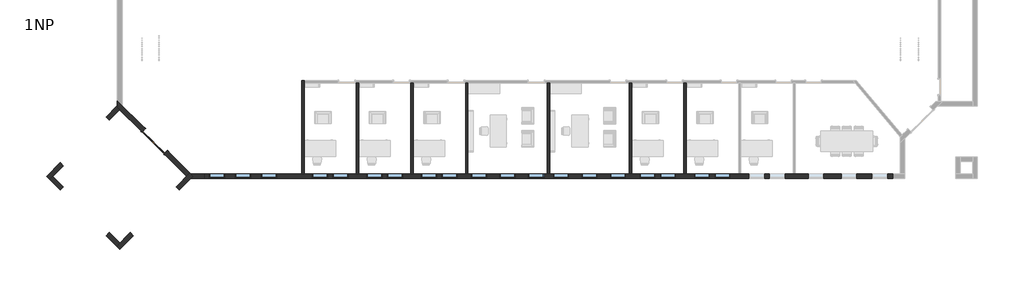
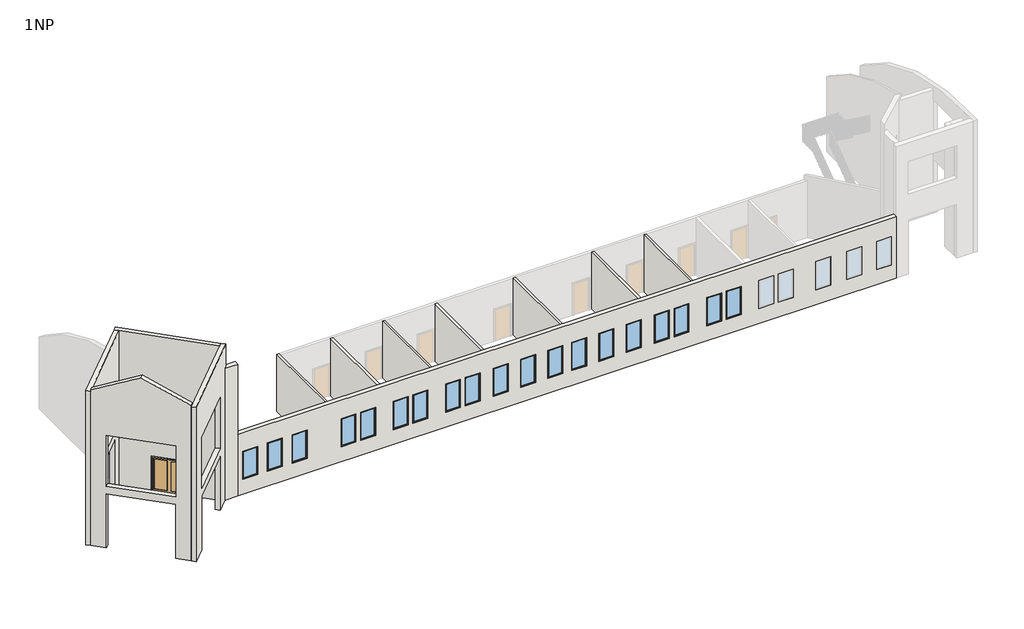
# One storey, part 1 of 3: 19 windows, 13 walls, 1 door.
"""IFC4 building model written with IfcOpenShell, lengths in millimetres."""

from ifc_helpers import new_model, si_unit, frame, origin, origin_with_axes, place, context, project, spatial, polyline, circle_curve, ellipse_curve, outline, extrude, faceted_brep, transform, mapped, element, save
from ifc_brep_helpers import plane_surface, cylinder_surface, advanced_brep
from components import m_double_glass_1_1830_x_2134mm_ce9160c6, m_fixed_0915_x_1830mm_7ee91fd3

model = new_model("IFC4")

# Units and contexts
model_context = context("Model", 3, world=origin())
ifc_project = project(units=[si_unit("LENGTHUNIT", "METRE", prefix="MILLI")], contexts=[model_context])

# Site, building, storey
site = spatial("IfcSite", under=ifc_project)
building = spatial("IfcBuilding", under=site)
storey = spatial("IfcBuildingStorey", under=building, Name="1NP", Elevation=0.0)

# Door
placement = place(None, origin())
m_double_glass_1_1830_x_2134mm_shape = m_double_glass_1_1830_x_2134mm_ce9160c6(model_context)
element("IfcDoor", 1, ObjectType="M_Double-Glass 1 : 1830 x 2134mm", at=placement, inside=storey, context=model_context, shape_type="MappedRepresentation", body=[
    mapped(m_double_glass_1_1830_x_2134mm_shape, transform((-9492.0310093, -2706.151406, 0.0), x_axis=(-0.7071067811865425, 0.7071067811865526, 0.0), y_axis=(-0.7071067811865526, -0.7071067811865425, 0.0), z_axis=(0.0, 0.0, 1.0))),
])

# Walls
element("IfcWall", 2, ObjectType="Exterior - EIFS on Mtl. Stud", at=placement, inside=storey, context=model_context, shape_type="AdvancedBrep", body=[
    advanced_brep(
    [(-6587.8076313, -4624.9448694, 0.0), (-7387.8076313, -4624.9448694, 0.0), (-7387.8076313, -4624.9448694, 8556.4380679), (-6587.8076313, -4624.9448694, 8556.4380679), (-6587.8076313, -4624.9448694, 8000.0), (-6587.8076313, -4624.9448694, 4000.0), (-6587.8076313, -4891.9448694, 0.0), (-6587.8076313, -4891.9448694, 4000.0), (-6587.8076313, -4891.9448694, 8000.0), (-6587.8076313, -4891.9448694, 8541.7849302), (-7387.8076313, -4891.9448694, 8541.7849302), (-7387.8076313, -4891.9448694, 0.0), (-7254.3076313, -4758.4448694, 0.0), (-7254.3076313, -4758.4448694, 8549.6141311)],
    [
        (0, 1),
        (1, 2),
        (2, 3),
        (3, 4),
        (4, 5),
        (5, 0),
        (6, 7),
        (7, 8),
        (8, 9),
        (9, 10),
        (10, 11),
        (11, 6),
        (0, 6),
        (11, 12),
        (12, 1),
        (3, 9, circle_curve(frame((-6587.8076313, -3782.5530793, -9232.9575956), z_axis=(1.0, 0.0, 0.0), x_axis=(0.0, -1.0, 0.0)), 17809.3296337)),
        (12, 13),
        (13, 2, ellipse_curve(frame((-8230.1994214, -3782.5530793, -9232.9575956), z_axis=(-0.7071067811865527, -0.7071067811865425, 0.0), x_axis=(0.7071067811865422, -0.7071067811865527, 0.0)), 25186.1955048, 17809.3296337)),
        (10, 13, ellipse_curve(frame((-6278.4158411, -3782.5530793, -9232.9575956), z_axis=(-0.7071067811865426, 0.7071067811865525, 0.0), x_axis=(0.7071067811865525, 0.7071067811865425, 0.0)), 25186.1955048, 17809.3296337)),
    ],
    [
        plane_surface(frame((12455.6755273, -4624.9448694, 0.0), z_axis=(0.0, 1.0, 0.0), x_axis=(-1.0, 0.0, 0.0))),
        plane_surface(frame((12455.6755273, -4891.9448694, 0.0), z_axis=(0.0, -1.0, 0.0), x_axis=(1.0, 0.0, 0.0))),
        plane_surface(frame((-6587.8076313, -4624.9448694, 0.0), z_axis=(0.0, 0.0, -1.0), x_axis=(0.0, -1.0, 0.0))),
        plane_surface(frame((-6587.8076313, -4624.9448694, 4000.0), z_axis=(1.0, 0.0, 0.0), x_axis=(0.0, -1.0, 0.0))),
        plane_surface(frame((-9352.1166743, -2660.6358263, -427.8219034), z_axis=(-0.7071067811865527, -0.7071067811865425, 0.0), x_axis=(0.7071067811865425, -0.7071067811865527, 0.0))),
        plane_surface(frame((-9352.1166743, -6856.2539125, -427.8219034), z_axis=(-0.7071067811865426, 0.7071067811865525, 0.0), x_axis=(-0.7071067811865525, -0.7071067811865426, 0.0))),
        cylinder_surface(frame((39922.6755273, -3782.5530793, -9232.9575956), z_axis=(1.0, 0.0, 0.0), x_axis=(0.0, -1.0, 0.0)), 17809.3296337),
    ],
    [
        (0, [[1, 2, 3, 4, 5, 6]]),
        (1, [[7, 8, 9, 10, 11, 12]]),
        (2, [[-1, 13, -12, 14, 15]]),
        (3, [[-6, -5, -4, 16, -9, -8, -7, -13]]),
        (4, [[-2, -15, 17, 18]]),
        (5, [[-14, -11, 19, -17]]),
        (6, [[-3, -18, -19, -10, -16]]),
    ],
),
])
element("IfcWall", 3, ObjectType="Exterior - EIFS on Mtl. Stud", at=placement, inside=storey, context=model_context, shape_type="Brep", body=[
    faceted_brep([(33755.6755273, -4624.9448694, 0.0), (28058.4255273, -4624.9448694, 0.0), (27919.9255273, -4624.9448694, 0.0), (24858.4255273, -4624.9448694, 0.0), (24719.9255273, -4624.9448694, 0.0), (21658.4255273, -4624.9448694, 0.0), (21519.9255273, -4624.9448694, 0.0), (18458.4255273, -4624.9448694, 0.0), (18319.9255273, -4624.9448694, 0.0), (13658.4255273, -4624.9448694, 0.0), (13519.9255273, -4624.9448694, 0.0), (8858.4255273, -4624.9448694, 0.0), (8719.9255273, -4624.9448694, 0.0), (5658.4255273, -4624.9448694, 0.0), (5519.9255273, -4624.9448694, 0.0), (2458.4255273, -4624.9448694, 0.0), (2319.9255273, -4624.9448694, 0.0), (-741.5744727, -4624.9448694, 0.0), (-880.0744727, -4624.9448694, 0.0), (-6587.8076313, -4624.9448694, 0.0), (-6587.8076313, -4624.9448694, 4000.0), (33755.6755273, -4624.9448694, 4000.0), (33455.6755273, -4624.9448694, 970.0), (33455.6755273, -4624.9448694, 2800.0), (32540.6755273, -4624.9448694, 2800.0), (32540.6755273, -4624.9448694, 970.0), (31640.6755273, -4624.9448694, 970.0), (31640.6755273, -4624.9448694, 2800.0), (30725.6755273, -4624.9448694, 2800.0), (30725.6755273, -4624.9448694, 970.0), (29725.6755273, -4624.9448694, 970.0), (29725.6755273, -4624.9448694, 2800.0), (28810.6755273, -4624.9448694, 2800.0), (28810.6755273, -4624.9448694, 970.0), (-5380.0744727, -4624.9448694, 970.0), (-5380.0744727, -4624.9448694, 2800.0), (-6295.0744727, -4624.9448694, 2800.0), (-6295.0744727, -4624.9448694, 970.0), (-3865.0744727, -4624.9448694, 970.0), (-3865.0744727, -4624.9448694, 2800.0), (-4780.0744727, -4624.9448694, 2800.0), (-4780.0744727, -4624.9448694, 970.0), (-2350.0744727, -4624.9448694, 970.0), (-2350.0744727, -4624.9448694, 2800.0), (-3265.0744727, -4624.9448694, 2800.0), (-3265.0744727, -4624.9448694, 970.0), (646.6755273, -4624.9448694, 970.0), (646.6755273, -4624.9448694, 2800.0), (-268.3244727, -4624.9448694, 2800.0), (-268.3244727, -4624.9448694, 970.0), (1846.6755273, -4624.9448694, 970.0), (1846.6755273, -4624.9448694, 2800.0), (931.6755273, -4624.9448694, 2800.0), (931.6755273, -4624.9448694, 970.0), (9973.4255273, -4624.9448694, 970.0), (9973.4255273, -4624.9448694, 2800.0), (9058.4255273, -4624.9448694, 2800.0), (9058.4255273, -4624.9448694, 970.0), (13319.9255273, -4624.9448694, 970.0), (13319.9255273, -4624.9448694, 2800.0), (12404.9255273, -4624.9448694, 2800.0), (12404.9255273, -4624.9448694, 970.0), (11646.4255273, -4624.9448694, 970.0), (11646.4255273, -4624.9448694, 2800.0), (10731.4255273, -4624.9448694, 2800.0), (10731.4255273, -4624.9448694, 970.0), (14773.4255273, -4624.9448694, 970.0), (14773.4255273, -4624.9448694, 2800.0), (13858.4255273, -4624.9448694, 2800.0), (13858.4255273, -4624.9448694, 970.0), (18119.9255273, -4624.9448694, 970.0), (18119.9255273, -4624.9448694, 2800.0), (17204.9255273, -4624.9448694, 2800.0), (17204.9255273, -4624.9448694, 970.0), (16446.4255273, -4624.9448694, 970.0), (16446.4255273, -4624.9448694, 2800.0), (15531.4255273, -4624.9448694, 2800.0), (15531.4255273, -4624.9448694, 970.0), (3846.6755273, -4624.9448694, 970.0), (3846.6755273, -4624.9448694, 2800.0), (2931.6755273, -4624.9448694, 2800.0), (2931.6755273, -4624.9448694, 970.0), (5046.6755273, -4624.9448694, 970.0), (5046.6755273, -4624.9448694, 2800.0), (4131.6755273, -4624.9448694, 2800.0), (4131.6755273, -4624.9448694, 970.0), (7046.6755273, -4624.9448694, 970.0), (7046.6755273, -4624.9448694, 2800.0), (6131.6755273, -4624.9448694, 2800.0), (6131.6755273, -4624.9448694, 970.0), (8246.6755273, -4624.9448694, 970.0), (8246.6755273, -4624.9448694, 2800.0), (7331.6755273, -4624.9448694, 2800.0), (7331.6755273, -4624.9448694, 970.0), (19846.6755273, -4624.9448694, 970.0), (19846.6755273, -4624.9448694, 2800.0), (18931.6755273, -4624.9448694, 2800.0), (18931.6755273, -4624.9448694, 970.0), (21046.6755273, -4624.9448694, 970.0), (21046.6755273, -4624.9448694, 2800.0), (20131.6755273, -4624.9448694, 2800.0), (20131.6755273, -4624.9448694, 970.0), (23046.6755273, -4624.9448694, 970.0), (23046.6755273, -4624.9448694, 2800.0), (22131.6755273, -4624.9448694, 2800.0), (22131.6755273, -4624.9448694, 970.0), (24246.6755273, -4624.9448694, 970.0), (24246.6755273, -4624.9448694, 2800.0), (23331.6755273, -4624.9448694, 2800.0), (23331.6755273, -4624.9448694, 970.0), (26246.6755273, -4624.9448694, 970.0), (26246.6755273, -4624.9448694, 2800.0), (25331.6755273, -4624.9448694, 2800.0), (25331.6755273, -4624.9448694, 970.0), (27446.6755273, -4624.9448694, 970.0), (27446.6755273, -4624.9448694, 2800.0), (26531.6755273, -4624.9448694, 2800.0), (26531.6755273, -4624.9448694, 970.0), (-6587.8076313, -4891.9448694, 0.0), (33755.6755273, -4891.9448694, 0.0), (33755.6755273, -4891.9448694, 4000.0), (-6587.8076313, -4891.9448694, 4000.0), (33455.6755273, -4891.9448694, 2800.0), (33455.6755273, -4891.9448694, 970.0), (32540.6755273, -4891.9448694, 970.0), (32540.6755273, -4891.9448694, 2800.0), (31640.6755273, -4891.9448694, 2800.0), (31640.6755273, -4891.9448694, 970.0), (30725.6755273, -4891.9448694, 970.0), (30725.6755273, -4891.9448694, 2800.0), (29725.6755273, -4891.9448694, 2800.0), (29725.6755273, -4891.9448694, 970.0), (28810.6755273, -4891.9448694, 970.0), (28810.6755273, -4891.9448694, 2800.0), (-5380.0744727, -4891.9448694, 2800.0), (-5380.0744727, -4891.9448694, 970.0), (-6295.0744727, -4891.9448694, 970.0), (-6295.0744727, -4891.9448694, 2800.0), (-3865.0744727, -4891.9448694, 2800.0), (-3865.0744727, -4891.9448694, 970.0), (-4780.0744727, -4891.9448694, 970.0), (-4780.0744727, -4891.9448694, 2800.0), (-2350.0744727, -4891.9448694, 2800.0), (-2350.0744727, -4891.9448694, 970.0), (-3265.0744727, -4891.9448694, 970.0), (-3265.0744727, -4891.9448694, 2800.0), (646.6755273, -4891.9448694, 2800.0), (646.6755273, -4891.9448694, 970.0), (-268.3244727, -4891.9448694, 970.0), (-268.3244727, -4891.9448694, 2800.0), (1846.6755273, -4891.9448694, 2800.0), (1846.6755273, -4891.9448694, 970.0), (931.6755273, -4891.9448694, 970.0), (931.6755273, -4891.9448694, 2800.0), (9973.4255273, -4891.9448694, 2800.0), (9973.4255273, -4891.9448694, 970.0), (9058.4255273, -4891.9448694, 970.0), (9058.4255273, -4891.9448694, 2800.0), (13319.9255273, -4891.9448694, 2800.0), (13319.9255273, -4891.9448694, 970.0), (12404.9255273, -4891.9448694, 970.0), (12404.9255273, -4891.9448694, 2800.0), (11646.4255273, -4891.9448694, 2800.0), (11646.4255273, -4891.9448694, 970.0), (10731.4255273, -4891.9448694, 970.0), (10731.4255273, -4891.9448694, 2800.0), (14773.4255273, -4891.9448694, 970.0), (13858.4255273, -4891.9448694, 970.0), (13858.4255273, -4891.9448694, 2800.0), (14773.4255273, -4891.9448694, 2800.0), (18119.9255273, -4891.9448694, 970.0), (17204.9255273, -4891.9448694, 970.0), (17204.9255273, -4891.9448694, 2800.0), (18119.9255273, -4891.9448694, 2800.0), (16446.4255273, -4891.9448694, 970.0), (15531.4255273, -4891.9448694, 970.0), (15531.4255273, -4891.9448694, 2800.0), (16446.4255273, -4891.9448694, 2800.0), (3846.6755273, -4891.9448694, 970.0), (2931.6755273, -4891.9448694, 970.0), (2931.6755273, -4891.9448694, 2800.0), (3846.6755273, -4891.9448694, 2800.0), (5046.6755273, -4891.9448694, 970.0), (4131.6755273, -4891.9448694, 970.0), (4131.6755273, -4891.9448694, 2800.0), (5046.6755273, -4891.9448694, 2800.0), (7046.6755273, -4891.9448694, 970.0), (6131.6755273, -4891.9448694, 970.0), (6131.6755273, -4891.9448694, 2800.0), (7046.6755273, -4891.9448694, 2800.0), (8246.6755273, -4891.9448694, 970.0), (7331.6755273, -4891.9448694, 970.0), (7331.6755273, -4891.9448694, 2800.0), (8246.6755273, -4891.9448694, 2800.0), (19846.6755273, -4891.9448694, 970.0), (18931.6755273, -4891.9448694, 970.0), (18931.6755273, -4891.9448694, 2800.0), (19846.6755273, -4891.9448694, 2800.0), (21046.6755273, -4891.9448694, 970.0), (20131.6755273, -4891.9448694, 970.0), (20131.6755273, -4891.9448694, 2800.0), (21046.6755273, -4891.9448694, 2800.0), (23046.6755273, -4891.9448694, 970.0), (22131.6755273, -4891.9448694, 970.0), (22131.6755273, -4891.9448694, 2800.0), (23046.6755273, -4891.9448694, 2800.0), (24246.6755273, -4891.9448694, 970.0), (23331.6755273, -4891.9448694, 970.0), (23331.6755273, -4891.9448694, 2800.0), (24246.6755273, -4891.9448694, 2800.0), (26246.6755273, -4891.9448694, 970.0), (25331.6755273, -4891.9448694, 970.0), (25331.6755273, -4891.9448694, 2800.0), (26246.6755273, -4891.9448694, 2800.0), (27446.6755273, -4891.9448694, 970.0), (26531.6755273, -4891.9448694, 970.0), (26531.6755273, -4891.9448694, 2800.0), (27446.6755273, -4891.9448694, 2800.0)], [[[0, 1, 2, 3, 4, 5, 6, 7, 8, 9, 10, 11, 12, 13, 14, 15, 16, 17, 18, 19, 20, 21], [22, 23, 24, 25], [26, 27, 28, 29], [30, 31, 32, 33], [34, 35, 36, 37], [38, 39, 40, 41], [42, 43, 44, 45], [46, 47, 48, 49], [50, 51, 52, 53], [54, 55, 56, 57], [58, 59, 60, 61], [62, 63, 64, 65], [66, 67, 68, 69], [70, 71, 72, 73], [74, 75, 76, 77], [78, 79, 80, 81], [82, 83, 84, 85], [86, 87, 88, 89], [90, 91, 92, 93], [94, 95, 96, 97], [98, 99, 100, 101], [102, 103, 104, 105], [106, 107, 108, 109], [110, 111, 112, 113], [114, 115, 116, 117]], [[118, 119, 120, 121], [122, 123, 124, 125], [126, 127, 128, 129], [130, 131, 132, 133], [134, 135, 136, 137], [138, 139, 140, 141], [142, 143, 144, 145], [146, 147, 148, 149], [150, 151, 152, 153], [154, 155, 156, 157], [158, 159, 160, 161], [162, 163, 164, 165], [166, 167, 168, 169], [170, 171, 172, 173], [174, 175, 176, 177], [178, 179, 180, 181], [182, 183, 184, 185], [186, 187, 188, 189], [190, 191, 192, 193], [194, 195, 196, 197], [198, 199, 200, 201], [202, 203, 204, 205], [206, 207, 208, 209], [210, 211, 212, 213], [214, 215, 216, 217]], [[19, 18, 17, 16, 15, 14, 13, 12, 11, 10, 9, 8, 7, 6, 5, 4, 3, 2, 1, 0, 119, 118]], [[20, 19, 118, 121]], [[21, 20, 121, 120]], [[21, 120, 119, 0]], [[23, 22, 123, 122]], [[24, 23, 122, 125]], [[25, 24, 125, 124]], [[22, 25, 124, 123]], [[27, 26, 127, 126]], [[28, 27, 126, 129]], [[29, 28, 129, 128]], [[26, 29, 128, 127]], [[31, 30, 131, 130]], [[32, 31, 130, 133]], [[33, 32, 133, 132]], [[30, 33, 132, 131]], [[34, 135, 134, 35]], [[35, 134, 137, 36]], [[136, 37, 36, 137]], [[135, 34, 37, 136]], [[39, 38, 139, 138]], [[40, 39, 138, 141]], [[41, 40, 141, 140]], [[38, 41, 140, 139]], [[43, 42, 143, 142]], [[44, 43, 142, 145]], [[45, 44, 145, 144]], [[42, 45, 144, 143]], [[47, 46, 147, 146]], [[48, 47, 146, 149]], [[49, 48, 149, 148]], [[46, 49, 148, 147]], [[51, 50, 151, 150]], [[52, 51, 150, 153]], [[53, 52, 153, 152]], [[50, 53, 152, 151]], [[55, 54, 155, 154]], [[56, 55, 154, 157]], [[57, 56, 157, 156]], [[54, 57, 156, 155]], [[59, 58, 159, 158]], [[60, 59, 158, 161]], [[61, 60, 161, 160]], [[58, 61, 160, 159]], [[62, 163, 162, 63]], [[63, 162, 165, 64]], [[64, 165, 164, 65]], [[163, 62, 65, 164]], [[67, 66, 166, 169]], [[68, 67, 169, 168]], [[69, 68, 168, 167]], [[66, 69, 167, 166]], [[71, 70, 170, 173]], [[72, 71, 173, 172]], [[73, 72, 172, 171]], [[70, 73, 171, 170]], [[75, 74, 174, 177]], [[76, 75, 177, 176]], [[77, 76, 176, 175]], [[74, 77, 175, 174]], [[79, 78, 178, 181]], [[80, 79, 181, 180]], [[81, 80, 180, 179]], [[78, 81, 179, 178]], [[83, 82, 182, 185]], [[84, 83, 185, 184]], [[85, 84, 184, 183]], [[82, 85, 183, 182]], [[87, 86, 186, 189]], [[88, 87, 189, 188]], [[89, 88, 188, 187]], [[86, 89, 187, 186]], [[91, 90, 190, 193]], [[92, 91, 193, 192]], [[93, 92, 192, 191]], [[90, 93, 191, 190]], [[95, 94, 194, 197]], [[96, 95, 197, 196]], [[97, 96, 196, 195]], [[94, 97, 195, 194]], [[99, 98, 198, 201]], [[100, 99, 201, 200]], [[101, 100, 200, 199]], [[98, 101, 199, 198]], [[103, 102, 202, 205]], [[104, 103, 205, 204]], [[105, 104, 204, 203]], [[102, 105, 203, 202]], [[107, 106, 206, 209]], [[108, 107, 209, 208]], [[109, 108, 208, 207]], [[106, 109, 207, 206]], [[111, 110, 210, 213]], [[112, 111, 213, 212]], [[113, 112, 212, 211]], [[110, 113, 211, 210]], [[115, 114, 214, 217]], [[116, 115, 217, 216]], [[117, 116, 216, 215]], [[114, 117, 215, 214]]]),
])
element("IfcWall", 4, ObjectType="Exterior - EIFS on Mtl. Stud 2side", at=placement, inside=storey, context=model_context, shape_type="Brep", body=[
    faceted_brep([(-7443.1051418, -4569.6473588, 10000.0), (-7443.1051418, -4569.6473588, 0.0), (-7631.9026524, -4758.4448694, 0.0), (-8244.6106783, -5371.1528953, 0.0), (-8244.6106783, -5371.1528953, 3500.0), (-10931.6164468, -8058.1586638, 3500.0), (-10931.6164468, -8058.1586638, 0.0), (-11544.3244727, -8670.8666897, 0.0), (-11733.1219833, -8859.6642003, 0.0), (-11733.1219833, -8859.6642003, 10000.0), (-7631.9026524, -4758.4448694, 10000.0), (-8244.6106783, -5371.1528953, 4000.0), (-8244.6106783, -5371.1528953, 7300.0), (-10931.6164468, -8058.1586638, 7300.0), (-10931.6164468, -8058.1586638, 4000.0), (-7254.3076313, -4758.4448694, 0.0), (-7254.3076313, -4758.4448694, 8549.6141311), (-7254.3076313, -4758.4448694, 10000.0), (-11544.3244727, -9048.4617109, 10000.0), (-11544.3244727, -9048.4617109, 0.0), (-10742.8189362, -8246.9561744, 0.0), (-10742.8189362, -8246.9561744, 3500.0), (-8055.8131677, -5559.9504059, 3500.0), (-8055.8131677, -5559.9504059, 0.0), (-7387.8076313, -4891.9448694, 0.0), (-8055.8131677, -5559.9504059, 4000.0), (-10742.8189362, -8246.9561744, 4000.0), (-10742.8189362, -8246.9561744, 7300.0), (-8055.8131677, -5559.9504059, 7300.0), (-7387.8076313, -4624.9448694, 0.0)], [[[0, 1, 2, 3, 4, 5, 6, 7, 8, 9, 10], [11, 12, 13, 14]], [[15, 16, 17, 18, 19, 20, 21, 22, 23, 24], [25, 26, 27, 28]], [[3, 2, 1, 29, 15, 24, 23]], [[4, 3, 23, 22]], [[5, 4, 22, 21]], [[6, 5, 21, 20]], [[8, 7, 6, 20, 19]], [[0, 10, 9, 18, 17]], [[12, 11, 25, 28]], [[13, 12, 28, 27]], [[14, 13, 27, 26]], [[11, 14, 26, 25]], [[0, 17, 16, 15, 29, 1]], [[9, 8, 19, 18]]]),
])
element("IfcWall", 5, ObjectType="Exterior - EIFS on Mtl. Stud 2side", at=placement, inside=storey, context=model_context, shape_type="Brep", body=[
    faceted_brep([(-7631.9026524, -4758.4448694, 10000.0), (-11544.3244727, -846.0230491, 10000.0), (-11733.1219833, -657.2255385, 10000.0), (-11733.1219833, -657.2255385, 8290.0514578), (-11677.8244727, -712.5230491, 8290.0514578), (-11677.8244727, -712.5230491, 0.0), (-11544.3244727, -846.0230491, 0.0), (-10235.1162674, -2155.2312545, 0.0), (-10235.1162674, -2155.2312545, 2134.0), (-8941.1108578, -3449.2366641, 2134.0), (-8941.1108578, -3449.2366641, 0.0), (-7631.9026524, -4758.4448694, 0.0), (-11544.3244727, -468.428028, 10000.0), (-7443.1051418, -4569.6473588, 10000.0), (-7443.1051418, -4569.6473588, 0.0), (-8752.3133472, -3260.4391535, 0.0), (-8752.3133472, -3260.4391535, 2134.0), (-10046.3187568, -1966.4337439, 2134.0), (-10046.3187568, -1966.4337439, 0.0), (-11410.8244727, -601.928028, 0.0), (-11677.8244727, -334.928028, 0.0), (-11677.8244727, -334.928028, 8239.4808006), (-11677.8244727, -334.928028, 8290.0514578), (-11544.3244727, -468.428028, 8290.0514578), (-11677.8244727, -601.928028, 0.0), (-11677.8244727, -601.928028, 8290.0514578)], [[[0, 1, 2, 3, 4, 5, 6, 7, 8, 9, 10, 11]], [[12, 13, 14, 15, 16, 17, 18, 19, 20, 21, 22, 23]], [[5, 24, 20, 19, 18, 7, 6]], [[14, 11, 10, 15]], [[2, 1, 0, 13, 12]], [[4, 3, 25]], [[5, 4, 25, 22, 21, 20, 24]], [[3, 2, 12, 23, 25]], [[23, 22, 25]], [[11, 14, 13, 0]], [[8, 7, 18, 17]], [[9, 8, 17, 16]], [[10, 9, 16, 15]]]),
])
element("IfcWall", 6, ObjectType="Exterior - EIFS on Mtl. Stud 2side", at=placement, inside=storey, context=model_context, shape_type="Brep", body=[
    faceted_brep([(-11677.8244727, -601.928028, 0.0), (-12345.8300092, -1269.9335644, 0.0), (-12345.8300092, -1269.9335644, 3500.0), (-15032.8357777, -3956.939333, 3500.0), (-15032.8357777, -3956.939333, 0.0), (-15834.3413142, -4758.4448694, 0.0), (-15834.3413142, -4758.4448694, 10000.0), (-11733.1219833, -657.2255385, 10000.0), (-11733.1219833, -657.2255385, 8290.0514578), (-11677.8244727, -601.928028, 8290.0514578), (-12345.8300092, -1269.9335644, 4000.0), (-12345.8300092, -1269.9335644, 7300.0), (-15032.8357777, -3956.939333, 7300.0), (-15032.8357777, -3956.939333, 4000.0), (-11544.3244727, -846.0230491, 0.0), (-11544.3244727, -846.0230491, 8290.0514578), (-11544.3244727, -846.0230491, 10000.0), (-15645.5438036, -4947.24238, 10000.0), (-15645.5438036, -4947.24238, 0.0), (-15456.746293, -4758.4448694, 0.0), (-14844.0382671, -4145.7368435, 0.0), (-14844.0382671, -4145.7368435, 3500.0), (-12157.0324986, -1458.731075, 3500.0), (-12157.0324986, -1458.731075, 0.0), (-12157.0324986, -1458.731075, 4000.0), (-14844.0382671, -4145.7368435, 4000.0), (-14844.0382671, -4145.7368435, 7300.0), (-12157.0324986, -1458.731075, 7300.0), (-11677.8244727, -712.5230491, 0.0), (-11677.8244727, -712.5230491, 8290.0514578)], [[[0, 1, 2, 3, 4, 5, 6, 7, 8, 9], [10, 11, 12, 13]], [[14, 15, 16, 17, 18, 19, 20, 21, 22, 23], [24, 25, 26, 27]], [[1, 0, 28, 14, 23]], [[2, 1, 23, 22]], [[3, 2, 22, 21]], [[4, 3, 21, 20]], [[5, 4, 20, 19, 18]], [[7, 6, 17, 16]], [[11, 10, 24, 27]], [[12, 11, 27, 26]], [[13, 12, 26, 25]], [[10, 13, 25, 24]], [[6, 5, 18, 17]], [[8, 29, 9]], [[0, 9, 29, 28]], [[29, 15, 14, 28]], [[8, 7, 16, 15, 29]]]),
])
element("IfcWall", 7, ObjectType="Exterior - EIFS on Mtl. Stud 2side", at=placement, inside=storey, context=model_context, shape_type="Brep", body=[
    faceted_brep([(-15645.5438036, -4947.24238, 0.0), (-15032.8357777, -5559.9504059, 0.0), (-15032.8357777, -5559.9504059, 3500.0), (-12345.8300092, -8246.9561744, 3500.0), (-12345.8300092, -8246.9561744, 0.0), (-11733.1219833, -8859.6642003, 0.0), (-11733.1219833, -8859.6642003, 10000.0), (-11733.1219833, -8859.6642003, 10076.9407636), (-13689.3328934, -6903.4532902, 11366.9808999), (-15645.5438036, -4947.24238, 10076.9407636), (-15645.5438036, -4947.24238, 10000.0), (-15032.8357777, -5559.9504059, 4000.0), (-15032.8357777, -5559.9504059, 7300.0), (-12345.8300092, -8246.9561744, 7300.0), (-12345.8300092, -8246.9561744, 4000.0), (-15456.746293, -4758.4448694, 0.0), (-15456.746293, -4758.4448694, 10076.9407636), (-13500.5353829, -6714.6557796, 11366.9808999), (-11544.3244727, -8670.8666897, 10076.9407636), (-11544.3244727, -8670.8666897, 0.0), (-12157.0324986, -8058.1586638, 0.0), (-12157.0324986, -8058.1586638, 3500.0), (-14844.0382671, -5371.1528953, 3500.0), (-14844.0382671, -5371.1528953, 0.0), (-14844.0382671, -5371.1528953, 4000.0), (-12157.0324986, -8058.1586638, 4000.0), (-12157.0324986, -8058.1586638, 7300.0), (-14844.0382671, -5371.1528953, 7300.0)], [[[0, 1, 2, 3, 4, 5, 6, 7, 8, 9, 10], [11, 12, 13, 14]], [[15, 16, 17, 18, 19, 20, 21, 22, 23], [24, 25, 26, 27]], [[1, 0, 15, 23]], [[2, 1, 23, 22]], [[3, 2, 22, 21]], [[4, 3, 21, 20]], [[5, 4, 20, 19]], [[12, 11, 24, 27]], [[13, 12, 27, 26]], [[14, 13, 26, 25]], [[11, 14, 25, 24]], [[7, 6, 5, 19, 18]], [[0, 10, 9, 16, 15]], [[9, 8, 17, 16]], [[8, 7, 18, 17]]]),
])
element("IfcWall", 8, ObjectType="Interior - 138mm Partition (1-hr)", at=placement, inside=storey, context=model_context, shape_type="Brep", body=[
    faceted_brep([(-741.5744727, -4624.9448694, 0.0), (-741.5744727, 722.3051306, 0.0), (-741.5744727, 860.8051306, 0.0), (-741.5744727, 860.8051306, 3700.0), (-741.5744727, 722.3051306, 3700.0), (-741.5744727, -4624.9448694, 3700.0), (-880.0744727, -4624.9448694, 0.0), (-880.0744727, -4624.9448694, 3700.0), (-880.0744727, 860.8051306, 3700.0), (-880.0744727, 860.8051306, 0.0)], [[[0, 1, 2, 3, 4, 5]], [[6, 7, 8, 9]], [[2, 1, 0, 6, 9]], [[5, 4, 3, 8, 7]], [[3, 2, 9, 8]], [[0, 5, 7, 6]]]),
])
element("IfcWall", 9, ObjectType="Interior - 138mm Partition (1-hr)", at=placement, inside=storey, context=model_context, shape_type="SweptSolid", body=[
    extrude(outline(polyline([(2458.4255273, 722.3051306), (2458.4255273, -4624.9448694), (2319.9255273, -4624.9448694), (2319.9255273, 722.3051306), (2458.4255273, 722.3051306)])), origin_with_axes(), (0.0, 0.0, 1.0), 3700.0),
])
element("IfcWall", 10, ObjectType="Interior - 138mm Partition (1-hr)", at=placement, inside=storey, context=model_context, shape_type="SweptSolid", body=[
    extrude(outline(polyline([(5658.4255273, 722.3051306), (5658.4255273, -4624.9448694), (5519.9255273, -4624.9448694), (5519.9255273, 722.3051306), (5658.4255273, 722.3051306)])), origin_with_axes(), (0.0, 0.0, 1.0), 3700.0),
])
element("IfcWall", 11, ObjectType="Interior - 138mm Partition (1-hr)", at=placement, inside=storey, context=model_context, shape_type="SweptSolid", body=[
    extrude(outline(polyline([(8858.4255273, 722.3051306), (8858.4255273, -4624.9448694), (8719.9255273, -4624.9448694), (8719.9255273, 722.3051306), (8858.4255273, 722.3051306)])), origin_with_axes(), (0.0, 0.0, 1.0), 3700.0),
])
element("IfcWall", 12, ObjectType="Interior - 138mm Partition (1-hr)", at=placement, inside=storey, context=model_context, shape_type="SweptSolid", body=[
    extrude(outline(polyline([(13658.4255273, 722.3051306), (13658.4255273, -4624.9448694), (13519.9255273, -4624.9448694), (13519.9255273, 722.3051306), (13658.4255273, 722.3051306)])), origin_with_axes(), (0.0, 0.0, 1.0), 3700.0),
])
element("IfcWall", 13, ObjectType="Interior - 138mm Partition (1-hr)", at=placement, inside=storey, context=model_context, shape_type="SweptSolid", body=[
    extrude(outline(polyline([(21658.4255273, 722.3051306), (21658.4255273, -4624.9448694), (21519.9255273, -4624.9448694), (21519.9255273, 722.3051306), (21658.4255273, 722.3051306)])), origin_with_axes(), (0.0, 0.0, 1.0), 3700.0),
])
element("IfcWall", 14, ObjectType="Interior - 138mm Partition (1-hr)", at=placement, inside=storey, context=model_context, shape_type="SweptSolid", body=[
    extrude(outline(polyline([(18458.4255273, 722.3051306), (18458.4255273, -4624.9448694), (18319.9255273, -4624.9448694), (18319.9255273, 722.3051306), (18458.4255273, 722.3051306)])), origin_with_axes(), (0.0, 0.0, 1.0), 3700.0),
])

# Windows
m_fixed_0915_x_1830mm_shape = m_fixed_0915_x_1830mm_7ee91fd3(model_context)
element("IfcWindow", 15, ObjectType="M_Fixed : 0915 x 1830mm", at=placement, inside=storey, context=model_context, shape_type="MappedRepresentation", body=[
    mapped(m_fixed_0915_x_1830mm_shape, transform((-5837.5744727, -4745.4448694, 665.0), x_axis=(-1.0, 0.0, 0.0), y_axis=(0.0, -1.0, 0.0), z_axis=(0.0, 0.0, 1.0))),
])
element("IfcWindow", 16, ObjectType="M_Fixed : 0915 x 1830mm", at=placement, inside=storey, context=model_context, shape_type="MappedRepresentation", body=[
    mapped(m_fixed_0915_x_1830mm_shape, transform((-4322.5744727, -4745.4448694, 665.0), x_axis=(-1.0, 0.0, 0.0), y_axis=(0.0, -1.0, 0.0), z_axis=(0.0, 0.0, 1.0))),
])
element("IfcWindow", 17, ObjectType="M_Fixed : 0915 x 1830mm", at=placement, inside=storey, context=model_context, shape_type="MappedRepresentation", body=[
    mapped(m_fixed_0915_x_1830mm_shape, transform((-2807.5744727, -4745.4448694, 665.0), x_axis=(-1.0, 0.0, 0.0), y_axis=(0.0, -1.0, 0.0), z_axis=(0.0, 0.0, 1.0))),
])
element("IfcWindow", 18, ObjectType="M_Fixed : 0915 x 1830mm", at=placement, inside=storey, context=model_context, shape_type="MappedRepresentation", body=[
    mapped(m_fixed_0915_x_1830mm_shape, transform((189.1755273, -4745.4448694, 665.0), x_axis=(-1.0, 0.0, 0.0), y_axis=(0.0, -1.0, 0.0), z_axis=(0.0, 0.0, 1.0))),
])
element("IfcWindow", 19, ObjectType="M_Fixed : 0915 x 1830mm", at=placement, inside=storey, context=model_context, shape_type="MappedRepresentation", body=[
    mapped(m_fixed_0915_x_1830mm_shape, transform((1389.1755273, -4745.4448694, 665.0), x_axis=(-1.0, 0.0, 0.0), y_axis=(0.0, -1.0, 0.0), z_axis=(0.0, 0.0, 1.0))),
])
element("IfcWindow", 20, ObjectType="M_Fixed : 0915 x 1830mm", at=placement, inside=storey, context=model_context, shape_type="MappedRepresentation", body=[
    mapped(m_fixed_0915_x_1830mm_shape, transform((3389.1755273, -4745.4448694, 665.0), x_axis=(-1.0, 0.0, 0.0), y_axis=(0.0, -1.0, 0.0), z_axis=(0.0, 0.0, 1.0))),
])
element("IfcWindow", 21, ObjectType="M_Fixed : 0915 x 1830mm", at=placement, inside=storey, context=model_context, shape_type="MappedRepresentation", body=[
    mapped(m_fixed_0915_x_1830mm_shape, transform((4589.1755273, -4745.4448694, 665.0), x_axis=(-1.0, 0.0, 0.0), y_axis=(0.0, -1.0, 0.0), z_axis=(0.0, 0.0, 1.0))),
])
element("IfcWindow", 22, ObjectType="M_Fixed : 0915 x 1830mm", at=placement, inside=storey, context=model_context, shape_type="MappedRepresentation", body=[
    mapped(m_fixed_0915_x_1830mm_shape, transform((6589.1755273, -4745.4448694, 665.0), x_axis=(-1.0, 0.0, 0.0), y_axis=(0.0, -1.0, 0.0), z_axis=(0.0, 0.0, 1.0))),
])
element("IfcWindow", 23, ObjectType="M_Fixed : 0915 x 1830mm", at=placement, inside=storey, context=model_context, shape_type="MappedRepresentation", body=[
    mapped(m_fixed_0915_x_1830mm_shape, transform((7789.1755273, -4745.4448694, 665.0), x_axis=(-1.0, 0.0, 0.0), y_axis=(0.0, -1.0, 0.0), z_axis=(0.0, 0.0, 1.0))),
])
element("IfcWindow", 24, ObjectType="M_Fixed : 0915 x 1830mm", at=placement, inside=storey, context=model_context, shape_type="MappedRepresentation", body=[
    mapped(m_fixed_0915_x_1830mm_shape, transform((22589.1755273, -4745.4448694, 665.0), x_axis=(-1.0, 0.0, 0.0), y_axis=(0.0, -1.0, 0.0), z_axis=(0.0, 0.0, 1.0))),
])
element("IfcWindow", 25, ObjectType="M_Fixed : 0915 x 1830mm", at=placement, inside=storey, context=model_context, shape_type="MappedRepresentation", body=[
    mapped(m_fixed_0915_x_1830mm_shape, transform((23789.1755273, -4745.4448694, 665.0), x_axis=(-1.0, 0.0, 0.0), y_axis=(0.0, -1.0, 0.0), z_axis=(0.0, 0.0, 1.0))),
])
element("IfcWindow", 26, ObjectType="M_Fixed : 0915 x 1830mm", at=placement, inside=storey, context=model_context, shape_type="MappedRepresentation", body=[
    mapped(m_fixed_0915_x_1830mm_shape, transform((9515.9255273, -4745.4448694, 665.0), x_axis=(-1.0, 0.0, 0.0), y_axis=(0.0, -1.0, 0.0), z_axis=(0.0, 0.0, 1.0))),
])
element("IfcWindow", 27, ObjectType="M_Fixed : 0915 x 1830mm", at=placement, inside=storey, context=model_context, shape_type="MappedRepresentation", body=[
    mapped(m_fixed_0915_x_1830mm_shape, transform((12862.4255273, -4745.4448694, 665.0), x_axis=(-1.0, 0.0, 0.0), y_axis=(0.0, -1.0, 0.0), z_axis=(0.0, 0.0, 1.0))),
])
element("IfcWindow", 28, ObjectType="M_Fixed : 0915 x 1830mm", at=placement, inside=storey, context=model_context, shape_type="MappedRepresentation", body=[
    mapped(m_fixed_0915_x_1830mm_shape, transform((19389.1755273, -4745.4448694, 665.0), x_axis=(-1.0, 0.0, 0.0), y_axis=(0.0, -1.0, 0.0), z_axis=(0.0, 0.0, 1.0))),
])
element("IfcWindow", 29, ObjectType="M_Fixed : 0915 x 1830mm", at=placement, inside=storey, context=model_context, shape_type="MappedRepresentation", body=[
    mapped(m_fixed_0915_x_1830mm_shape, transform((20589.1755273, -4745.4448694, 665.0), x_axis=(-1.0, 0.0, 0.0), y_axis=(0.0, -1.0, 0.0), z_axis=(0.0, 0.0, 1.0))),
])
element("IfcWindow", 30, ObjectType="M_Fixed : 0915 x 1830mm", at=placement, inside=storey, context=model_context, shape_type="MappedRepresentation", body=[
    mapped(m_fixed_0915_x_1830mm_shape, transform((11188.9255273, -4745.4448694, 665.0), x_axis=(-1.0, 0.0, 0.0), y_axis=(0.0, -1.0, 0.0), z_axis=(0.0, 0.0, 1.0))),
])
element("IfcWindow", 31, ObjectType="M_Fixed : 0915 x 1830mm", at=placement, inside=storey, context=model_context, shape_type="MappedRepresentation", body=[
    mapped(m_fixed_0915_x_1830mm_shape, transform((14315.9255273, -4745.4448694, 665.0), x_axis=(-1.0, 0.0, 0.0), y_axis=(0.0, -1.0, 0.0), z_axis=(0.0, 0.0, 1.0))),
])
element("IfcWindow", 32, ObjectType="M_Fixed : 0915 x 1830mm", at=placement, inside=storey, context=model_context, shape_type="MappedRepresentation", body=[
    mapped(m_fixed_0915_x_1830mm_shape, transform((17662.4255273, -4745.4448694, 665.0), x_axis=(-1.0, 0.0, 0.0), y_axis=(0.0, -1.0, 0.0), z_axis=(0.0, 0.0, 1.0))),
])
element("IfcWindow", 33, ObjectType="M_Fixed : 0915 x 1830mm", at=placement, inside=storey, context=model_context, shape_type="MappedRepresentation", body=[
    mapped(m_fixed_0915_x_1830mm_shape, transform((15988.9255273, -4745.4448694, 665.0), x_axis=(-1.0, 0.0, 0.0), y_axis=(0.0, -1.0, 0.0), z_axis=(0.0, 0.0, 1.0))),
])

save(model, "model.ifc")
